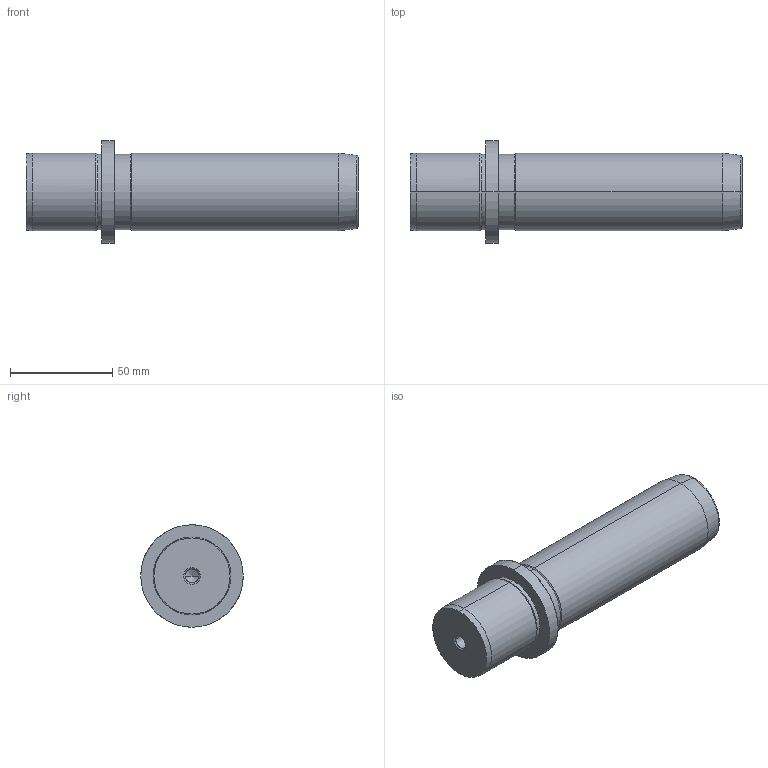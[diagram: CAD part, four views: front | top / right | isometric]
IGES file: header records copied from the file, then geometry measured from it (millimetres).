
Start section: START RECORD GO HERE.
Global section: file name: 718-38x125.igs; native system: DASSAULT SYSTEMES CATIA V5 R20 - www.3ds.com; preprocessor: CATIA Version 5 Release 20 ; author: Utente; organization: NB04-ASUS; date: 20210102.135929; units: millimetre
Bounding box: 162 x 50 x 50 mm (x, y, z)
Surface area: 24347.3 mm2 (no closed solid volume)
Topology: 0 solids, 0 shells, 36 faces, 196 edges, 192 vertices
Faces by surface type: revolution 32, plane 4
